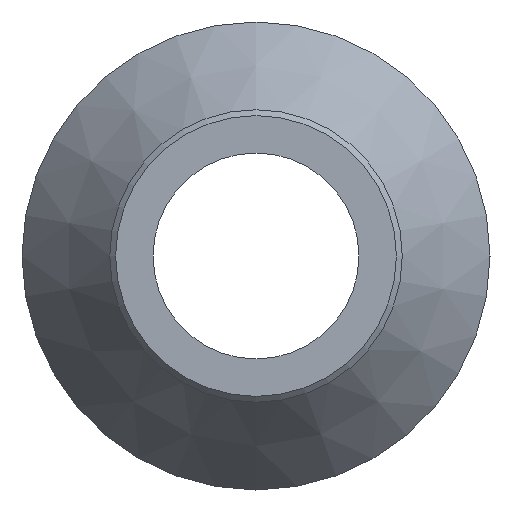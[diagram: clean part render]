
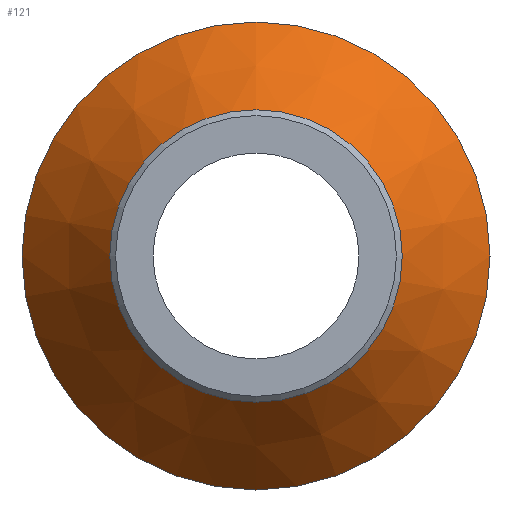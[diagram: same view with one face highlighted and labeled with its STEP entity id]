
A CAD part, left-side view. The second image highlights one B-rep face of the part: STEP entity #121.
In plain terms, the highlighted conical face has half-angle 36.87 degrees and reference radius 20 mm.
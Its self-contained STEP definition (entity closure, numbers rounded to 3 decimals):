
#22=CONICAL_SURFACE('',#146,20.,0.644);
#28=ORIENTED_EDGE('',*,*,#48,.F.);
#29=ORIENTED_EDGE('',*,*,#47,.T.);
#47=EDGE_CURVE('',#57,#57,#67,.T.);
#48=EDGE_CURVE('',#58,#58,#68,.T.);
#57=VERTEX_POINT('',#210);
#58=VERTEX_POINT('',#213);
#67=CIRCLE('',#145,20.);
#68=CIRCLE('',#147,12.5);
#78=EDGE_LOOP('',(#28));
#79=EDGE_LOOP('',(#29));
#98=FACE_BOUND('',#78,.T.);
#99=FACE_BOUND('',#79,.T.);
#121=ADVANCED_FACE('',(#98,#99),#22,.T.);
#145=AXIS2_PLACEMENT_3D('',#209,#169,#170);
#146=AXIS2_PLACEMENT_3D('',#211,#171,#172);
#147=AXIS2_PLACEMENT_3D('',#212,#173,#174);
#169=DIRECTION('',(-1.,0.,0.));
#170=DIRECTION('',(0.,0.,1.));
#171=DIRECTION('',(1.,0.,0.));
#172=DIRECTION('',(0.,0.,-1.));
#173=DIRECTION('',(-1.,0.,0.));
#174=DIRECTION('',(0.,0.,1.));
#209=CARTESIAN_POINT('',(5.,0.,0.));
#210=CARTESIAN_POINT('',(5.,0.,20.));
#211=CARTESIAN_POINT('',(5.,0.,0.));
#212=CARTESIAN_POINT('',(-5.,0.,0.));
#213=CARTESIAN_POINT('',(-5.,0.,12.5));
